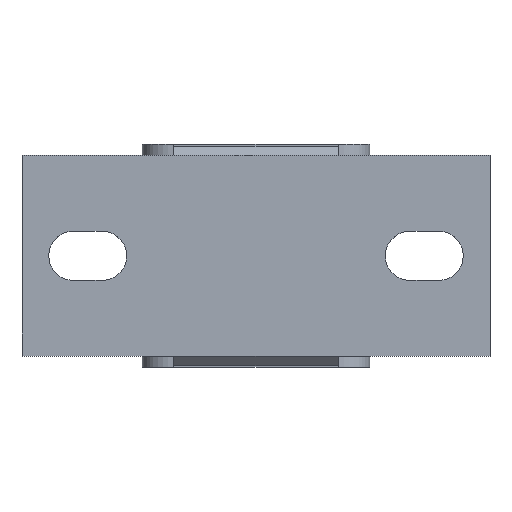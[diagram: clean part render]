
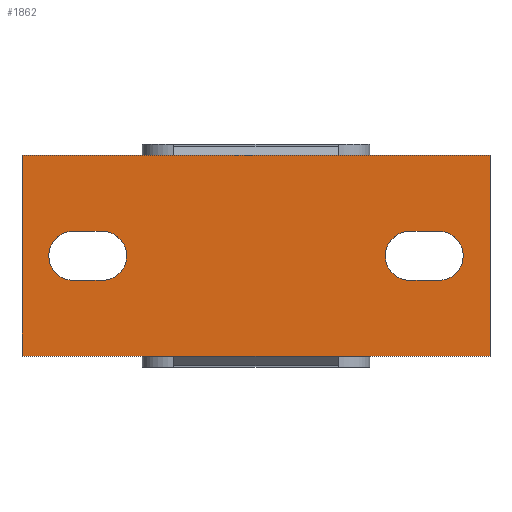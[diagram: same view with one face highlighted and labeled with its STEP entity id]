
A CAD part, top view. The second image highlights one B-rep face of the part: STEP entity #1862.
In plain terms, the highlighted planar face has unit normal (0, 0, 1).
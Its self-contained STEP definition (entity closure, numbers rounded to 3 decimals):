
#73=FACE_BOUND('',#447,.T.);
#74=FACE_BOUND('',#448,.T.);
#180=PLANE('',#2051);
#300=FACE_OUTER_BOUND('',#446,.T.);
#446=EDGE_LOOP('',(#1693,#1694,#1695,#1696));
#447=EDGE_LOOP('',(#1697,#1698,#1699,#1700));
#448=EDGE_LOOP('',(#1701,#1702,#1703,#1704));
#592=LINE('',#3069,#760);
#597=LINE('',#3083,#765);
#600=LINE('',#3093,#768);
#605=LINE('',#3107,#773);
#608=LINE('',#3117,#776);
#612=LINE('',#3125,#780);
#615=LINE('',#3131,#783);
#618=LINE('',#3136,#786);
#760=VECTOR('',#2526,13.);
#765=VECTOR('',#2539,13.);
#768=VECTOR('',#2550,13.);
#773=VECTOR('',#2563,13.);
#776=VECTOR('',#2574,90.);
#780=VECTOR('',#2580,210.);
#783=VECTOR('',#2585,90.);
#786=VECTOR('',#2590,210.);
#841=CIRCLE('',#2033,11.);
#843=CIRCLE('',#2037,11.);
#845=CIRCLE('',#2041,11.);
#847=CIRCLE('',#2045,11.);
#970=VERTEX_POINT('',#3067);
#971=VERTEX_POINT('',#3068);
#974=VERTEX_POINT('',#3076);
#976=VERTEX_POINT('',#3082);
#978=VERTEX_POINT('',#3091);
#979=VERTEX_POINT('',#3092);
#982=VERTEX_POINT('',#3100);
#984=VERTEX_POINT('',#3106);
#986=VERTEX_POINT('',#3115);
#987=VERTEX_POINT('',#3116);
#990=VERTEX_POINT('',#3124);
#992=VERTEX_POINT('',#3130);
#1199=EDGE_CURVE('',#970,#971,#592,.T.);
#1203=EDGE_CURVE('',#971,#974,#841,.T.);
#1206=EDGE_CURVE('',#974,#976,#597,.T.);
#1209=EDGE_CURVE('',#976,#970,#843,.T.);
#1211=EDGE_CURVE('',#978,#979,#600,.T.);
#1215=EDGE_CURVE('',#979,#982,#845,.T.);
#1218=EDGE_CURVE('',#982,#984,#605,.T.);
#1221=EDGE_CURVE('',#984,#978,#847,.T.);
#1223=EDGE_CURVE('',#986,#987,#608,.T.);
#1227=EDGE_CURVE('',#987,#990,#612,.T.);
#1230=EDGE_CURVE('',#990,#992,#615,.T.);
#1233=EDGE_CURVE('',#992,#986,#618,.T.);
#1693=ORIENTED_EDGE('',*,*,#1223,.F.);
#1694=ORIENTED_EDGE('',*,*,#1233,.F.);
#1695=ORIENTED_EDGE('',*,*,#1230,.F.);
#1696=ORIENTED_EDGE('',*,*,#1227,.F.);
#1697=ORIENTED_EDGE('',*,*,#1199,.T.);
#1698=ORIENTED_EDGE('',*,*,#1203,.T.);
#1699=ORIENTED_EDGE('',*,*,#1206,.T.);
#1700=ORIENTED_EDGE('',*,*,#1209,.T.);
#1701=ORIENTED_EDGE('',*,*,#1211,.T.);
#1702=ORIENTED_EDGE('',*,*,#1215,.T.);
#1703=ORIENTED_EDGE('',*,*,#1218,.T.);
#1704=ORIENTED_EDGE('',*,*,#1221,.T.);
#1862=ADVANCED_FACE('',(#300,#73,#74),#180,.T.);
#2033=AXIS2_PLACEMENT_3D('',#3077,#2532,#2533);
#2037=AXIS2_PLACEMENT_3D('',#3088,#2544,#2545);
#2041=AXIS2_PLACEMENT_3D('',#3101,#2556,#2557);
#2045=AXIS2_PLACEMENT_3D('',#3112,#2568,#2569);
#2051=AXIS2_PLACEMENT_3D('',#3138,#2592,#2593);
#2526=DIRECTION('',(1.,0.,0.));
#2532=DIRECTION('center_axis',(0.,0.,-1.));
#2533=DIRECTION('ref_axis',(0.,-1.,0.));
#2539=DIRECTION('',(-1.,0.,0.));
#2544=DIRECTION('center_axis',(0.,0.,-1.));
#2545=DIRECTION('ref_axis',(0.,1.,0.));
#2550=DIRECTION('',(1.,0.,0.));
#2556=DIRECTION('center_axis',(0.,0.,-1.));
#2557=DIRECTION('ref_axis',(0.,-1.,0.));
#2563=DIRECTION('',(-1.,0.,0.));
#2568=DIRECTION('center_axis',(0.,0.,-1.));
#2569=DIRECTION('ref_axis',(0.,1.,0.));
#2574=DIRECTION('',(0.,-1.,0.));
#2580=DIRECTION('',(-1.,0.,0.));
#2585=DIRECTION('',(0.,1.,0.));
#2590=DIRECTION('',(1.,0.,0.));
#2592=DIRECTION('center_axis',(0.,0.,1.));
#2593=DIRECTION('ref_axis',(1.,0.,0.));
#3067=CARTESIAN_POINT('',(-82.,11.,10.));
#3068=CARTESIAN_POINT('',(-69.,11.,10.));
#3069=CARTESIAN_POINT('',(-41.,11.,10.));
#3076=CARTESIAN_POINT('',(-69.,-11.,10.));
#3077=CARTESIAN_POINT('Origin',(-69.,0.,10.));
#3082=CARTESIAN_POINT('',(-82.,-11.,10.));
#3083=CARTESIAN_POINT('',(-34.5,-11.,10.));
#3088=CARTESIAN_POINT('Origin',(-82.,0.,10.));
#3091=CARTESIAN_POINT('',(69.,11.,10.));
#3092=CARTESIAN_POINT('',(82.,11.,10.));
#3093=CARTESIAN_POINT('',(34.5,11.,10.));
#3100=CARTESIAN_POINT('',(82.,-11.,10.));
#3101=CARTESIAN_POINT('Origin',(82.,0.,10.));
#3106=CARTESIAN_POINT('',(69.,-11.,10.));
#3107=CARTESIAN_POINT('',(41.,-11.,10.));
#3112=CARTESIAN_POINT('Origin',(69.,0.,10.));
#3115=CARTESIAN_POINT('',(105.,45.,10.));
#3116=CARTESIAN_POINT('',(105.,-45.,10.));
#3117=CARTESIAN_POINT('',(105.,45.,10.));
#3124=CARTESIAN_POINT('',(-105.,-45.,10.));
#3125=CARTESIAN_POINT('',(105.,-45.,10.));
#3130=CARTESIAN_POINT('',(-105.,45.,10.));
#3131=CARTESIAN_POINT('',(-105.,-45.,10.));
#3136=CARTESIAN_POINT('',(-105.,45.,10.));
#3138=CARTESIAN_POINT('Origin',(0.,0.,
10.));
